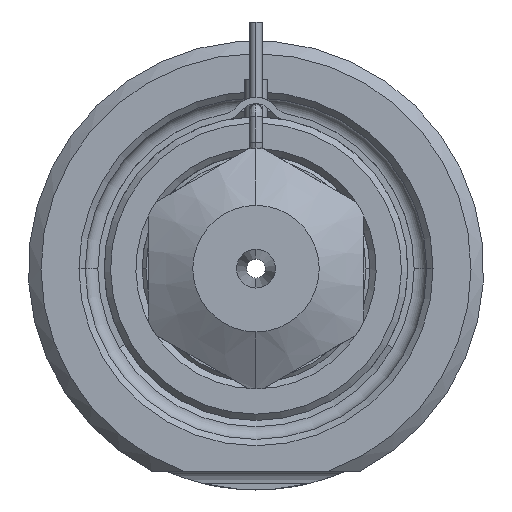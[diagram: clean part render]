
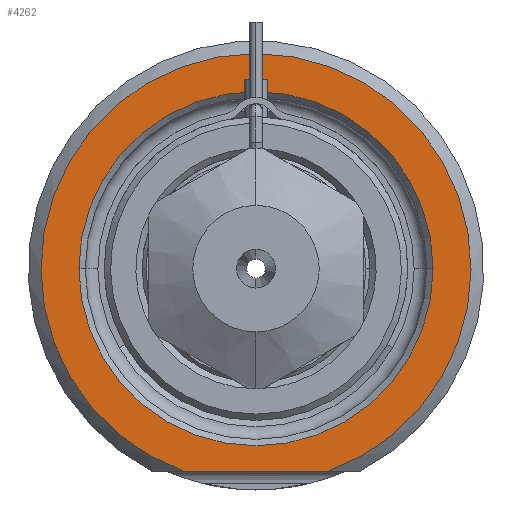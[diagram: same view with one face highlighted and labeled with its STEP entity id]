
A CAD part, front view. The second image highlights one B-rep face of the part: STEP entity #4262.
In plain terms, the highlighted planar face has unit normal (0, -1, 0).
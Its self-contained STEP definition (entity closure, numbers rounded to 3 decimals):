
#1339=CARTESIAN_POINT('',(0.,0.,0.));
#1340=DIRECTION('',(0.,-1.,0.));
#1341=DIRECTION('',(0.338,0.,-0.941));
#1342=AXIS2_PLACEMENT_3D('',#1339,#1340,#1341);
#1363=DIRECTION('',(1.,0.,0.));
#1364=VECTOR('',#1363,11.489);
#1365=CARTESIAN_POINT('',(-5.745,0.,-16.));
#1366=LINE('',#1365,#1364);
#1367=CARTESIAN_POINT('',(0.,0.,0.));
#1368=DIRECTION('',(0.,1.,0.));
#1369=DIRECTION('',(-1.,0.,0.));
#1370=AXIS2_PLACEMENT_3D('',#1367,#1368,#1369);
#1372=CARTESIAN_POINT('',(0.,0.,0.));
#1373=DIRECTION('',(0.,1.,0.));
#1374=DIRECTION('',(1.,0.,0.));
#1375=AXIS2_PLACEMENT_3D('',#1372,#1373,#1374);
#2264=CARTESIAN_POINT('',(-14.,0.,0.));
#2265=CARTESIAN_POINT('',(14.,0.,0.));
#2266=VERTEX_POINT('',#2264);
#2267=VERTEX_POINT('',#2265);
#2304=CARTESIAN_POINT('',(-5.745,0.,-16.));
#2305=CARTESIAN_POINT('',(5.745,0.,-16.));
#2306=VERTEX_POINT('',#2304);
#2307=VERTEX_POINT('',#2305);
#4247=CARTESIAN_POINT('',(0.,0.,0.));
#4248=DIRECTION('',(0.,-1.,0.));
#4249=DIRECTION('',(1.,0.,0.));
#4250=AXIS2_PLACEMENT_3D('',#4247,#4248,#4249);
#4251=PLANE('',#4250);
#4252=ORIENTED_EDGE('',*,*,#4179,.F.);
#4253=ORIENTED_EDGE('',*,*,#4239,.F.);
#4254=EDGE_LOOP('',(#4252,#4253));
#4255=FACE_OUTER_BOUND('',#4254,.F.);
#4257=ORIENTED_EDGE('',*,*,#4256,.F.);
#4259=ORIENTED_EDGE('',*,*,#4258,.F.);
#4260=EDGE_LOOP('',(#4257,#4259));
#4261=FACE_BOUND('',#4260,.F.);
#4262=ADVANCED_FACE('',(#4255,#4261),#4251,.T.);
#1343=CIRCLE('',#1342,17.);
#1371=CIRCLE('',#1370,14.);
#1376=CIRCLE('',#1375,14.);
#4179=EDGE_CURVE('',#2306,#2307,#1366,.T.);
#4239=EDGE_CURVE('',#2307,#2306,#1343,.T.);
#4256=EDGE_CURVE('',#2266,#2267,#1371,.T.);
#4258=EDGE_CURVE('',#2267,#2266,#1376,.T.);
